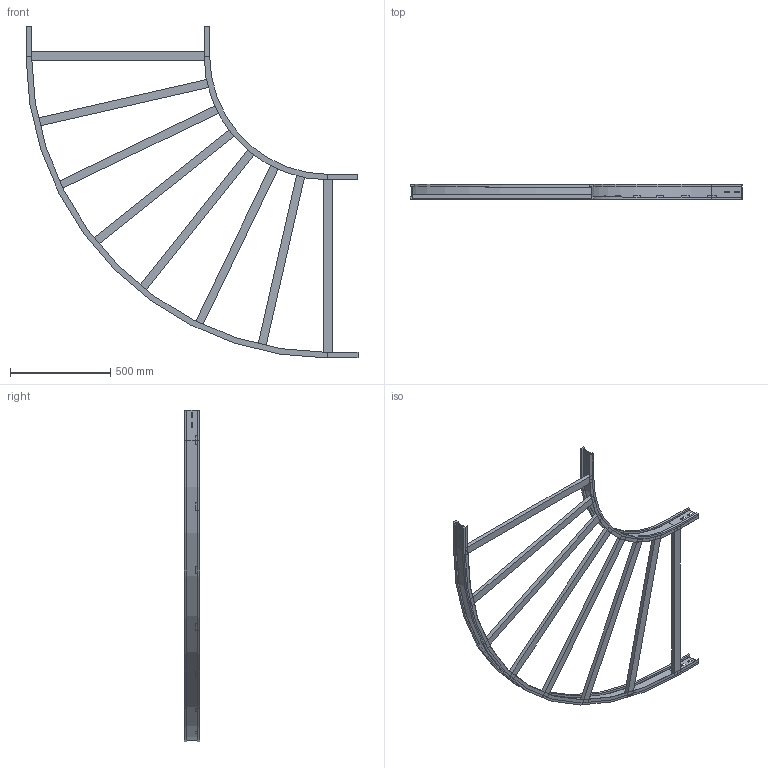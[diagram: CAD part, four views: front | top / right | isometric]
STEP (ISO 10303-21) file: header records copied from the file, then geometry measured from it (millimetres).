
FILE_DESCRIPTION (( 'STEP AP214' ), '1' );
FILE_NAME ('10S6C900.step', '2025-02-21T16:12:10', ( '' ), ( '' ), 'SwSTEP 2.0', 'SolidWorks 2023', '' );
FILE_SCHEMA (( 'AUTOMOTIVE_DESIGN' ));
Length unit declared in the file: millimetre
Products named in the file (4): LONGH.ESTERNO 90°_H75_R600+900; 10S6C900; TRAVERSINO_900; LONGH.INTERNO 90°_H75_R600
Assembly tree (10 placements, depth 2):
  10S6C900
    LONGH.INTERNO 90°_H75_R600
    LONGH.ESTERNO 90°_H75_R600+900
    TRAVERSINO_900  x8
Bounding box: 1659 x 75 x 1659 mm (x, y, z)
Volume: 7730930.8 mm3; surface area: 1843415.1 mm2
Topology: 10 solids, 10 shells, 156 faces, 360 edges, 224 vertices
Faces by surface type: plane 144, cylinder 12
Entity records: 3429 total; most frequent: CARTESIAN_POINT 571, DIRECTION 554, ORIENTED_EDGE 552, EDGE_CURVE 276, LINE 252, VECTOR 252, VERTEX_POINT 168, AXIS2_PLACEMENT_3D 151
